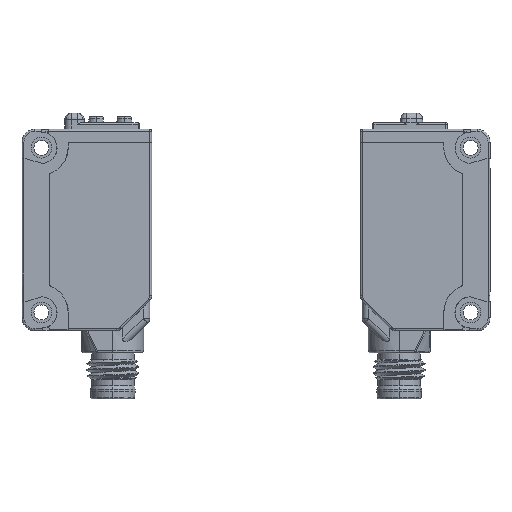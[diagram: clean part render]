
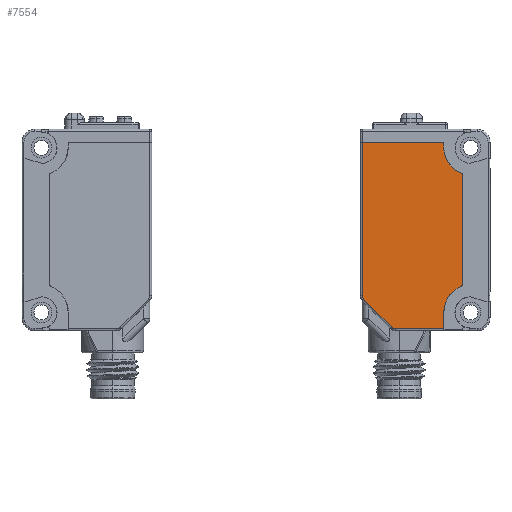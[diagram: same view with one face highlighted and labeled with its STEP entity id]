
A CAD part, left-side view. The second image highlights one B-rep face of the part: STEP entity #7554.
In plain terms, the highlighted planar face has unit normal (-1, 0, 0) as drawn and (1, 0, 0) by its records, which use the part's own axes.
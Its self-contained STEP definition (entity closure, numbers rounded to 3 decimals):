
#1354 = DIRECTION ( 'NONE',  ( 0., -0.707, 0.707 ) ) ;
#1515 = EDGE_CURVE ( 'NONE', #56564, #2718, #28944, .T. ) ;
#1960 = EDGE_CURVE ( 'NONE', #55566, #64513, #70948, .T. ) ;
#2395 = CARTESIAN_POINT ( 'NONE',  ( 4.084, -4.029, -17.052 ) ) ;
#2718 = VERTEX_POINT ( 'NONE', #112358 ) ;
#4177 = DIRECTION ( 'NONE',  ( 0., 0., -1. ) ) ;
#4515 = CIRCLE ( 'NONE', #16360, 0.3 ) ;
#4866 = ORIENTED_EDGE ( 'NONE', *, *, #87425, .F. ) ;
#5669 = CARTESIAN_POINT ( 'NONE',  ( 4.084, -4.029, -17.052 ) ) ;
#5946 = VECTOR ( 'NONE', #118160, 1000. ) ;
#7350 = CARTESIAN_POINT ( 'NONE',  ( 4.084, 3.12, 11.712 ) ) ;
#7554 = ADVANCED_FACE ( 'NONE', ( #35330 ), #62027, .F. ) ;
#10658 = LINE ( 'NONE', #114844, #92729 ) ;
#11055 = CARTESIAN_POINT ( 'NONE',  ( 4.084, -9.143, 11.712 ) ) ;
#13655 = VERTEX_POINT ( 'NONE', #71788 ) ;
#15497 = DIRECTION ( 'NONE',  ( 0., 0., 1. ) ) ;
#15755 = VECTOR ( 'NONE', #21834, 1000. ) ;
#16360 = AXIS2_PLACEMENT_3D ( 'NONE', #108930, #27043, #74780 ) ;
#17325 = DIRECTION ( 'NONE',  ( 0., -1., 0. ) ) ;
#17327 = AXIS2_PLACEMENT_3D ( 'NONE', #54505, #92288, #38982 ) ;
#17527 = LINE ( 'NONE', #67165, #34991 ) ;
#19081 = DIRECTION ( 'NONE',  ( 0., 0., -1. ) ) ;
#20330 = VERTEX_POINT ( 'NONE', #118202 ) ;
#21834 = DIRECTION ( 'NONE',  ( 0., 0., -1. ) ) ;
#22360 = EDGE_CURVE ( 'NONE', #122486, #104663, #83739, .T. ) ;
#23750 = EDGE_CURVE ( 'NONE', #2718, #13655, #17527, .T. ) ;
#26613 = DIRECTION ( 'NONE',  ( -1., 0., 0. ) ) ;
#27043 = DIRECTION ( 'NONE',  ( -1., 0., 0. ) ) ;
#28944 = CIRCLE ( 'NONE', #66564, 4.447 ) ;
#29488 = VECTOR ( 'NONE', #121540, 1000. ) ;
#29606 = VECTOR ( 'NONE', #35315, 1000. ) ;
#29781 = CARTESIAN_POINT ( 'NONE',  ( 4.084, -9.071, -12.299 ) ) ;
#30142 = ORIENTED_EDGE ( 'NONE', *, *, #22360, .F. ) ;
#30340 = ORIENTED_EDGE ( 'NONE', *, *, #76655, .F. ) ;
#31172 = LINE ( 'NONE', #40461, #15755 ) ;
#31769 = CARTESIAN_POINT ( 'NONE',  ( 4.084, 7.867, -14.552 ) ) ;
#34991 = VECTOR ( 'NONE', #85729, 1000. ) ;
#35315 = DIRECTION ( 'NONE',  ( 0., 1., 0. ) ) ;
#35330 = FACE_OUTER_BOUND ( 'NONE', #109615, .T. ) ;
#35343 = EDGE_CURVE ( 'NONE', #63056, #117173, #10658, .T. ) ;
#36308 = EDGE_CURVE ( 'NONE', #104663, #117429, #53915, .T. ) ;
#37484 = VERTEX_POINT ( 'NONE', #117996 ) ;
#38278 = EDGE_CURVE ( 'NONE', #20330, #55566, #79720, .T. ) ;
#38982 = DIRECTION ( 'NONE',  ( 0., 0., -1. ) ) ;
#39754 = CARTESIAN_POINT ( 'NONE',  ( 4.084, -8.938, -12.432 ) ) ;
#40342 = VERTEX_POINT ( 'NONE', #5669 ) ;
#40459 = DIRECTION ( 'NONE',  ( 0., 0., -1. ) ) ;
#40461 = CARTESIAN_POINT ( 'NONE',  ( 4.084, 6.32, -2.502 ) ) ;
#40653 =( BOUNDED_CURVE ( )  B_SPLINE_CURVE ( 3, ( #2395, #112803, #96029, #84900 ),
 .UNSPECIFIED., .F., .F. ) 
 B_SPLINE_CURVE_WITH_KNOTS ( ( 4, 4 ),
 ( 0., 1. ),
 .UNSPECIFIED. ) 
 CURVE ( )  GEOMETRIC_REPRESENTATION_ITEM ( )  RATIONAL_B_SPLINE_CURVE ( ( 1., 0.949, 0.949, 1. ) ) 
 REPRESENTATION_ITEM ( '' )  );
#41360 = ORIENTED_EDGE ( 'NONE', *, *, #1960, .F. ) ;
#41971 = EDGE_CURVE ( 'NONE', #37484, #56564, #117117, .T. ) ;
#48990 = CARTESIAN_POINT ( 'NONE',  ( 4.084, -9.143, -12.125 ) ) ;
#49164 = AXIS2_PLACEMENT_3D ( 'NONE', #84812, #102157, #19081 ) ;
#50101 = CARTESIAN_POINT ( 'NONE',  ( 4.084, 6.02, -10.179 ) ) ;
#50455 = EDGE_CURVE ( 'NONE', #117429, #20330, #4515, .T. ) ;
#52097 = CARTESIAN_POINT ( 'NONE',  ( 4.084, -9.443, 11.712 ) ) ;
#53448 = ORIENTED_EDGE ( 'NONE', *, *, #36308, .F. ) ;
#53915 = LINE ( 'NONE', #52097, #29606 ) ;
#54505 = CARTESIAN_POINT ( 'NONE',  ( 4.084, 6.02, 6.662 ) ) ;
#54566 = CARTESIAN_POINT ( 'NONE',  ( 4.084, -9.443, -17.052 ) ) ;
#55157 = CARTESIAN_POINT ( 'NONE',  ( 4.084, -9.443, -2.502 ) ) ;
#55566 = VERTEX_POINT ( 'NONE', #87871 ) ;
#56564 = VERTEX_POINT ( 'NONE', #84765 ) ;
#57537 = EDGE_CURVE ( 'NONE', #117173, #122486, #102885, .T. ) ;
#60636 = DIRECTION ( 'NONE',  ( -1., 0., 0. ) ) ;
#62027 = PLANE ( 'NONE',  #116276 ) ;
#63056 = VERTEX_POINT ( 'NONE', #111701 ) ;
#63648 = AXIS2_PLACEMENT_3D ( 'NONE', #50101, #60636, #4177 ) ;
#64513 = VERTEX_POINT ( 'NONE', #83682 ) ;
#66564 = AXIS2_PLACEMENT_3D ( 'NONE', #31769, #79476, #40459 ) ;
#67165 = CARTESIAN_POINT ( 'NONE',  ( 4.084, 3.42, -2.502 ) ) ;
#69087 = ORIENTED_EDGE ( 'NONE', *, *, #41971, .F. ) ;
#70049 = VERTEX_POINT ( 'NONE', #111337 ) ;
#70948 = CIRCLE ( 'NONE', #49164, 4.337 ) ;
#71788 = CARTESIAN_POINT ( 'NONE',  ( 4.084, 3.42, -17.052 ) ) ;
#72420 = ORIENTED_EDGE ( 'NONE', *, *, #38278, .F. ) ;
#74780 = DIRECTION ( 'NONE',  ( 0., 0., -1. ) ) ;
#76655 = EDGE_CURVE ( 'NONE', #40342, #63056, #40653, .T. ) ;
#78074 = CARTESIAN_POINT ( 'NONE',  ( 4.084, -9.143, -11.937 ) ) ;
#79476 = DIRECTION ( 'NONE',  ( 1., 0., 0. ) ) ;
#79720 = LINE ( 'NONE', #98912, #5946 ) ;
#80739 = CIRCLE ( 'NONE', #17327, 0.3 ) ;
#83544 = ORIENTED_EDGE ( 'NONE', *, *, #57537, .F. ) ;
#83682 = CARTESIAN_POINT ( 'NONE',  ( 4.084, 6.133, 6.94 ) ) ;
#83739 = LINE ( 'NONE', #100494, #29488 ) ;
#84765 = CARTESIAN_POINT ( 'NONE',  ( 4.084, 6.137, -10.455 ) ) ;
#84812 = CARTESIAN_POINT ( 'NONE',  ( 4.084, 7.757, 10.961 ) ) ;
#84900 = CARTESIAN_POINT ( 'NONE',  ( 4.084, -4.524, -16.847 ) ) ;
#85729 = DIRECTION ( 'NONE',  ( 0., 0., -1. ) ) ;
#87425 = EDGE_CURVE ( 'NONE', #70049, #37484, #31172, .T. ) ;
#87871 = CARTESIAN_POINT ( 'NONE',  ( 4.084, 3.42, 10.961 ) ) ;
#92288 = DIRECTION ( 'NONE',  ( -1., 0., 0. ) ) ;
#92729 = VECTOR ( 'NONE', #1354, 1000. ) ;
#94919 = ORIENTED_EDGE ( 'NONE', *, *, #23750, .F. ) ;
#96029 = CARTESIAN_POINT ( 'NONE',  ( 4.084, -4.391, -16.98 ) ) ;
#97768 = ORIENTED_EDGE ( 'NONE', *, *, #104623, .F. ) ;
#98220 = ORIENTED_EDGE ( 'NONE', *, *, #116419, .F. ) ;
#98875 = VECTOR ( 'NONE', #17325, 1000. ) ;
#98912 = CARTESIAN_POINT ( 'NONE',  ( 4.084, 3.42, -2.502 ) ) ;
#99538 = ORIENTED_EDGE ( 'NONE', *, *, #50455, .F. ) ;
#100494 = CARTESIAN_POINT ( 'NONE',  ( 4.084, -9.143, -2.502 ) ) ;
#101992 = ORIENTED_EDGE ( 'NONE', *, *, #1515, .F. ) ;
#102157 = DIRECTION ( 'NONE',  ( 1., 0., 0. ) ) ;
#102885 =( BOUNDED_CURVE ( )  B_SPLINE_CURVE ( 3, ( #114711, #29781, #48990, #78074 ),
 .UNSPECIFIED., .F., .F. ) 
 B_SPLINE_CURVE_WITH_KNOTS ( ( 4, 4 ),
 ( 0., 1. ),
 .UNSPECIFIED. ) 
 CURVE ( )  GEOMETRIC_REPRESENTATION_ITEM ( )  RATIONAL_B_SPLINE_CURVE ( ( 1., 0.949, 0.949, 1. ) ) 
 REPRESENTATION_ITEM ( '' )  );
#104623 = EDGE_CURVE ( 'NONE', #64513, #70049, #80739, .T. ) ;
#104663 = VERTEX_POINT ( 'NONE', #11055 ) ;
#107801 = CARTESIAN_POINT ( 'NONE',  ( 4.084, -9.143, -11.937 ) ) ;
#108930 = CARTESIAN_POINT ( 'NONE',  ( 4.084, 3.12, 11.412 ) ) ;
#109615 = EDGE_LOOP ( 'NONE', ( #101992, #69087, #4866, #97768, #41360, #72420, #99538, #53448, #30142, #83544, #122446, #30340, #98220, #94919 ) ) ;
#110370 = LINE ( 'NONE', #54566, #98875 ) ;
#111337 = CARTESIAN_POINT ( 'NONE',  ( 4.084, 6.32, 6.662 ) ) ;
#111701 = CARTESIAN_POINT ( 'NONE',  ( 4.084, -4.524, -16.847 ) ) ;
#112358 = CARTESIAN_POINT ( 'NONE',  ( 4.084, 3.42, -14.552 ) ) ;
#112803 = CARTESIAN_POINT ( 'NONE',  ( 4.084, -4.217, -17.052 ) ) ;
#114711 = CARTESIAN_POINT ( 'NONE',  ( 4.084, -8.938, -12.432 ) ) ;
#114844 = CARTESIAN_POINT ( 'NONE',  ( 4.084, -4.524, -16.847 ) ) ;
#116276 = AXIS2_PLACEMENT_3D ( 'NONE', #55157, #26613, #15497 ) ;
#116419 = EDGE_CURVE ( 'NONE', #13655, #40342, #110370, .T. ) ;
#117117 = CIRCLE ( 'NONE', #63648, 0.3 ) ;
#117173 = VERTEX_POINT ( 'NONE', #39754 ) ;
#117429 = VERTEX_POINT ( 'NONE', #7350 ) ;
#117996 = CARTESIAN_POINT ( 'NONE',  ( 4.084, 6.32, -10.179 ) ) ;
#118160 = DIRECTION ( 'NONE',  ( 0., 0., -1. ) ) ;
#118202 = CARTESIAN_POINT ( 'NONE',  ( 4.084, 3.42, 11.412 ) ) ;
#121540 = DIRECTION ( 'NONE',  ( 0., 0., 1. ) ) ;
#122446 = ORIENTED_EDGE ( 'NONE', *, *, #35343, .F. ) ;
#122486 = VERTEX_POINT ( 'NONE', #107801 ) ;
